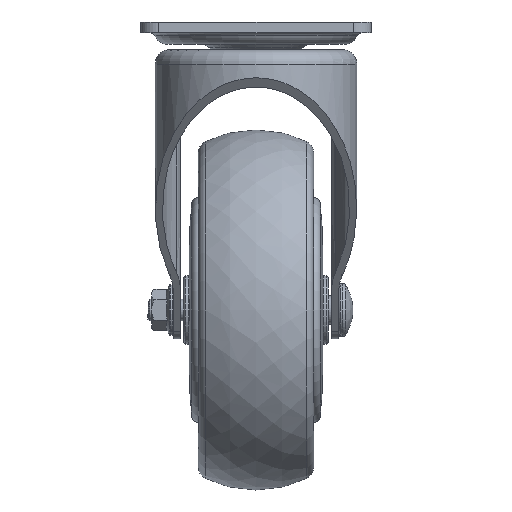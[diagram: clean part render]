
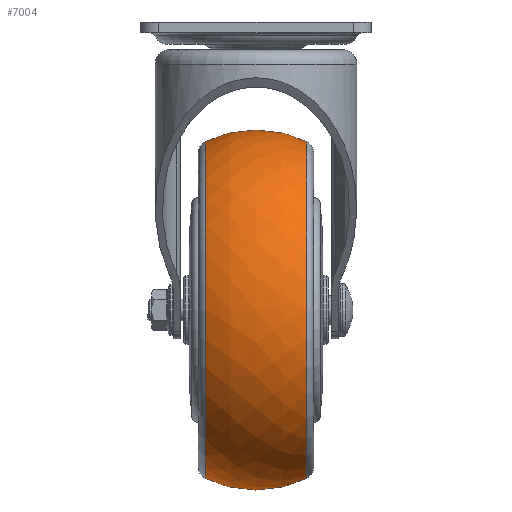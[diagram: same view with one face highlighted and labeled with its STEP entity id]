
A CAD part, left-side view. The second image highlights one B-rep face of the part: STEP entity #7004.
In plain terms, the highlighted free-form (B-spline) face has degree [2, 2] with [3, 9] control points.
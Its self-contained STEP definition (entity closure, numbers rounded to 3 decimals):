
#6932=CARTESIAN_POINT('',(75.258,-14.035,-24.9));
#6933=VERTEX_POINT('',#6932);
#6934=CARTESIAN_POINT('',(28.5,-14.035,-24.9));
#6935=DIRECTION('',(0.0,-1.0,0.0));
#6936=DIRECTION('',(1.0,0.0,0.0));
#6937=AXIS2_PLACEMENT_3D('',#6934,#6935,#6936);
#6938=CIRCLE('',#6937,46.758);
#6939=EDGE_CURVE('',#6933,#6933,#6938,.T.);
#6955=CARTESIAN_POINT('',(28.5,-14.035,-71.658));
#6956=CARTESIAN_POINT('',(28.5,0.,-78.508));
#6957=CARTESIAN_POINT('',(28.5,14.035,-71.658));
#6958=CARTESIAN_POINT('',(75.258,-14.035,-71.658));
#6959=CARTESIAN_POINT('',(82.108,0.,-78.508));
#6960=CARTESIAN_POINT('',(75.258,14.035,-71.658));
#6961=CARTESIAN_POINT('',(75.258,-14.035,-24.9));
#6962=CARTESIAN_POINT('',(82.108,0.,-24.9));
#6963=CARTESIAN_POINT('',(75.258,14.035,-24.9));
#6964=CARTESIAN_POINT('',(75.258,-14.035,21.858));
#6965=CARTESIAN_POINT('',(82.108,0.,28.708));
#6966=CARTESIAN_POINT('',(75.258,14.035,21.858));
#6967=CARTESIAN_POINT('',(28.5,-14.035,21.858));
#6968=CARTESIAN_POINT('',(28.5,0.,28.708));
#6969=CARTESIAN_POINT('',(28.5,14.035,21.858));
#6970=CARTESIAN_POINT('',(-18.258,-14.035,21.858));
#6971=CARTESIAN_POINT('',(-25.108,0.,28.708));
#6972=CARTESIAN_POINT('',(-18.258,14.035,21.858));
#6973=CARTESIAN_POINT('',(-18.258,-14.035,-24.9));
#6974=CARTESIAN_POINT('',(-25.108,0.,-24.9));
#6975=CARTESIAN_POINT('',(-18.258,14.035,-24.9));
#6976=CARTESIAN_POINT('',(-18.258,-14.035,-71.658));
#6977=CARTESIAN_POINT('',(-25.108,0.,-78.508));
#6978=CARTESIAN_POINT('',(-18.258,14.035,-71.658));
#6979=CARTESIAN_POINT('',(28.5,-14.035,-71.658));
#6980=CARTESIAN_POINT('',(28.5,0.,-78.508));
#6981=CARTESIAN_POINT('',(28.5,14.035,-71.658));
#6989=(BOUNDED_SURFACE()B_SPLINE_SURFACE(2,2,((#6955,#6958,#6961,#6964,#6967,#6970,#6973,#6976,#6979),(#6956,#6959,#6962,#6965,#6968,#6971,#6974,#6977,#6980),(#6957,#6960,#6963,#6966,#6969,#6972,#6975,#6978,#6981)),.UNSPECIFIED.,.F.,.T.,.U.)B_SPLINE_SURFACE_WITH_KNOTS((3,3),(3,2,2,2,3),(-0.454,0.454),(0.0,1.571,3.142,4.712,6.283),.UNSPECIFIED.)GEOMETRIC_REPRESENTATION_ITEM()RATIONAL_B_SPLINE_SURFACE(((1.0,0.707,1.0,0.707,1.0,0.707,1.0,0.707,1.0),(0.899,0.635,0.899,0.635,0.899,0.635,0.899,0.635,0.899),(1.0,0.707,1.0,0.707,1.0,0.707,1.0,0.707,1.0)))REPRESENTATION_ITEM('')SURFACE());
#6990=CARTESIAN_POINT('',(75.258,14.035,-24.9));
#6991=VERTEX_POINT('',#6990);
#6992=CARTESIAN_POINT('',(28.5,14.035,-24.9));
#6993=DIRECTION('',(0.0,-1.0,0.0));
#6994=DIRECTION('',(1.0,0.0,0.0));
#6995=AXIS2_PLACEMENT_3D('',#6992,#6993,#6994);
#6996=CIRCLE('',#6995,46.758);
#6997=EDGE_CURVE('',#6991,#6991,#6996,.T.);
#6998=ORIENTED_EDGE('',*,*,#6997,.T.);
#6999=EDGE_LOOP('',(#6998));
#7000=FACE_OUTER_BOUND('',#6999,.T.);
#7001=ORIENTED_EDGE('',*,*,#6939,.F.);
#7002=EDGE_LOOP('',(#7001));
#7003=FACE_BOUND('',#7002,.T.);
#7004=ADVANCED_FACE('',(#7000,#7003),#6989,.T.);
